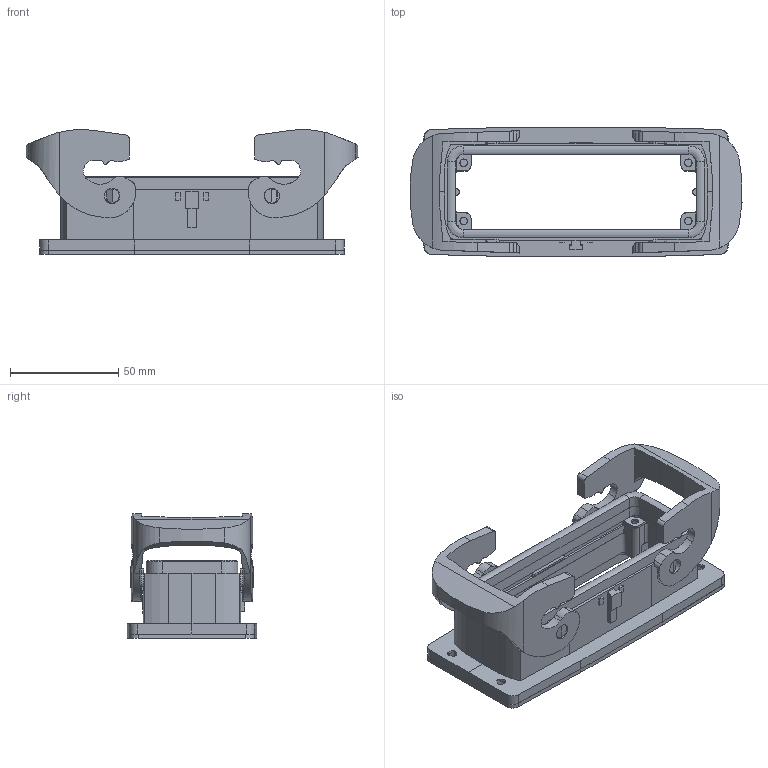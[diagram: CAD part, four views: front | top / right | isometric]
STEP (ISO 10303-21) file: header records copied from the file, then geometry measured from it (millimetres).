
FILE_DESCRIPTION(/* description */ (''),/* implementation_level */ '2;1');
FILE_NAME(/* name */ '100735591ugm000_d.stp',/* time_stamp */ '2022-07-06T13:59:15+02:00',/* author */ (''),/* organization */ (''),/* preprocessor_version */ 'ST-DEVELOPER v16.7',/* originating_system */ 'SIEMENS PLM Software NX 1911',/* authorisation */ '');
FILE_SCHEMA (('AUTOMOTIVE_DESIGN { 1 0 10303 214 3 1 1 1 }'));
Length unit declared in the file: millimetre
Products named in the file (1): 100735591ugm000_d
Bounding box: 153.67 x 60 x 57.84 mm (x, y, z)
Volume: 104400.5 mm3; surface area: 50989.7 mm2
Topology: 14 solids, 14 shells, 690 faces, 1900 edges, 1247 vertices
Faces by surface type: plane 479, cylinder 160, cone 30, bspline 13, torus 4, extrusion 4
Full cylindrical faces by diameter (mm): 1.139 x1, 1.346 x1, 3.4 x4, 3.5 x4, 7.2 x4
Entity records: 26508 total; most frequent: CARTESIAN_POINT 4679, ORIENTED_EDGE 3738, DIRECTION 3581, EDGE_CURVE 1869, VECTOR 1307, LINE 1303, VERTEX_POINT 1233, AXIS2_PLACEMENT_3D 1137
